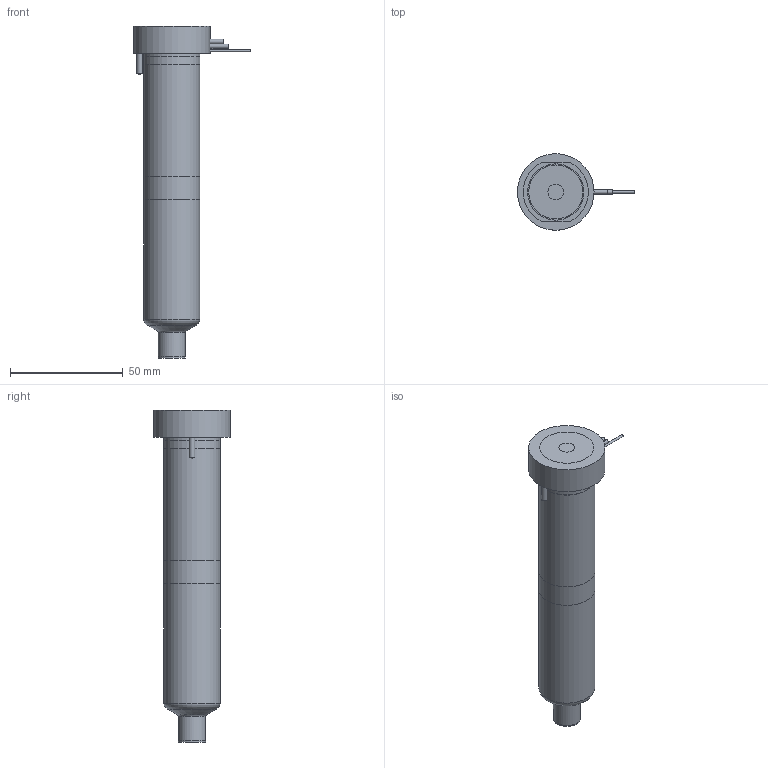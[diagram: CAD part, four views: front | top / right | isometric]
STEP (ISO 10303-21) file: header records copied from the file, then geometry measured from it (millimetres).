
FILE_DESCRIPTION(/* description */ (''),/* implementation_level */ '2;1');
FILE_NAME(/* name */ 'MXTVSN-MXIVSN-MXOVSN16130_250C_b',/* time_stamp */ '2015-08-12T11:51:59+12:00',/* author */ (''),/* organization */ (''),/* preprocessor_version */ 'ST-DEVELOPER v9',/* originating_system */ 'UGS - NX 4.0',/* authorisation */ '');
FILE_SCHEMA (('CONFIG_CONTROL_DESIGN'));
Length unit declared in the file: millimetre
Products named in the file (1): MattC7E5xxgl
Bounding box: 51.95 x 34 x 147.45 mm (x, y, z)
Volume: 126620.1 mm3; surface area: 26723.8 mm2
Topology: 7 solids, 7 shells, 80 faces, 151 edges, 97 vertices
Faces by surface type: plane 35, cylinder 27, cone 10, torus 7, bspline 1
Full cylindrical faces by diameter (mm): 1 x3, 2 x2, 2.5 x3, 7 x1, 11.61 x1, 12.01 x2, 14.8 x1, 20.8 x1, 24.9 x2, 25 x2, 34 x1
Entity records: 1922 total; most frequent: CARTESIAN_POINT 378, DIRECTION 330, ORIENTED_EDGE 216, AXIS2_PLACEMENT_3D 152, EDGE_LOOP 126, EDGE_CURVE 108, VERTEX_POINT 89, ADVANCED_FACE 80
